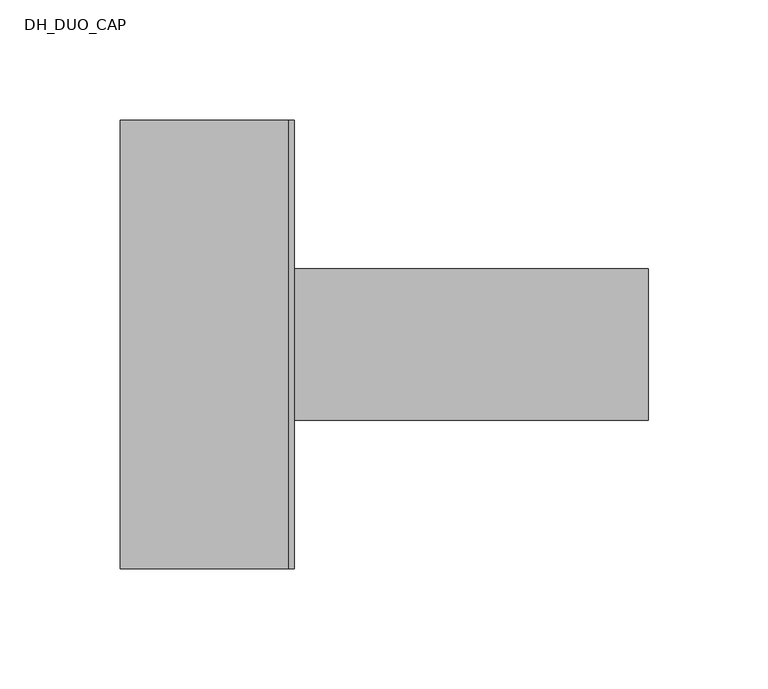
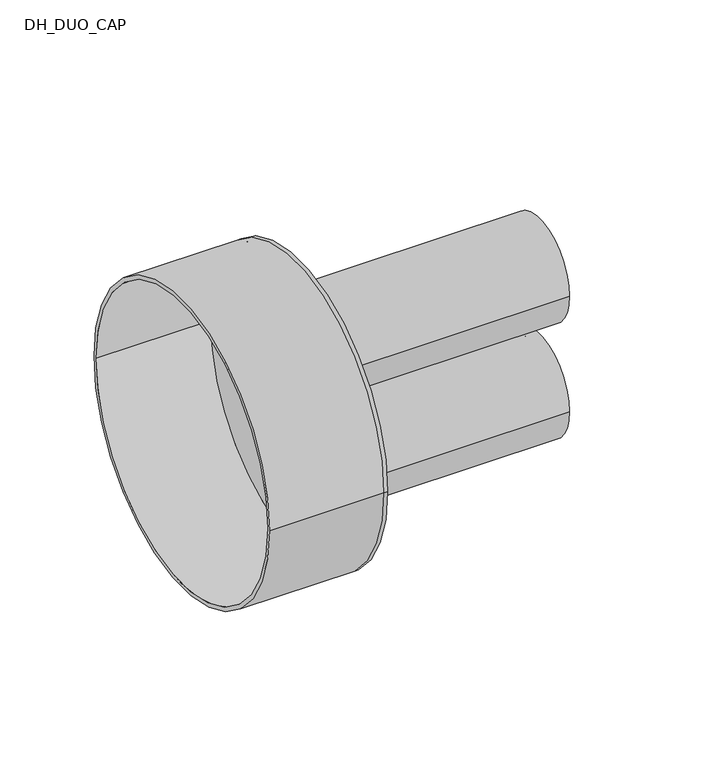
"""IFC4 building model written with IfcOpenShell, lengths in millimetres: pipe fitting geometry, DH_DUO_CAP : RAUTHERMEX DUO 11 Heating - Solid Cap."""

from ifc_helpers import new_model, si_unit, point, frame, frame_2d, origin, place, context, project, spatial, polyline, circle_curve, trimmed, segment, composite_curve, outline, extrude, source, transform, mapped, element, save
from ifc_brep_helpers import plane_surface, cylinder_surface, revolved_surface, advanced_brep


def dh_duo_cap_2d6c33d1(model_context):
    return source(origin(), model_context, "Body", "SolidModel", [
        extrude(outline(composite_curve([segment(trimmed(circle_curve(frame_2d((0.0, -37.5)), 31.5), [point((-31.5, -37.5))], [point((31.5, -37.5))], False, "CARTESIAN"), True, "CONTINUOUS"), segment(trimmed(circle_curve(frame_2d((0.0, -37.5)), 31.5), [point((31.5, -37.5))], [point((-31.5, -37.5))], False, "CARTESIAN"), True, "CONTINUOUS")], self_intersect=False), holes=[composite_curve([segment(trimmed(circle_curve(frame_2d((0.0, -37.5)), 25.7), [point((-25.7, -37.5))], [point((25.7, -37.5))], True, "CARTESIAN"), True, "CONTINUOUS"), segment(trimmed(circle_curve(frame_2d((0.0, -37.5)), 25.7), [point((25.7, -37.5))], [point((-25.7, -37.5))], True, "CARTESIAN"), True, "CONTINUOUS")], self_intersect=False)]), frame((0.0, 0.0, 0.0), z_axis=(1.0, 0.0, 0.0), x_axis=(0.0, 1.0, 0.0)), (0.0, 0.0, 1.0), 150.0),
        extrude(outline(composite_curve([segment(trimmed(circle_curve(frame_2d((0.0, 37.5)), 31.5), [point((-31.5, 37.5))], [point((31.5, 37.5))], False, "CARTESIAN"), True, "CONTINUOUS"), segment(trimmed(circle_curve(frame_2d((0.0, 37.5)), 31.5), [point((31.5, 37.5))], [point((-31.5, 37.5))], False, "CARTESIAN"), True, "CONTINUOUS")], self_intersect=False), holes=[composite_curve([segment(trimmed(circle_curve(frame_2d((0.0, 37.5)), 25.7), [point((-25.7, 37.5))], [point((25.7, 37.5))], True, "CARTESIAN"), True, "CONTINUOUS"), segment(trimmed(circle_curve(frame_2d((0.0, 37.5)), 25.7), [point((25.7, 37.5))], [point((-25.7, 37.5))], True, "CARTESIAN"), True, "CONTINUOUS")], self_intersect=False)]), frame((0.0, 0.0, 0.0), z_axis=(1.0, 0.0, 0.0), x_axis=(0.0, 1.0, 0.0)), (0.0, 0.0, 1.0), 150.0),
        advanced_brep(
        [(-70.0, -93.5, 0.0), (-70.0, 93.5, 0.0), (-70.0, -91.0, 0.0), (-70.0, 91.0, 0.0), (0.0, -91.0, 0.0), (0.0, 91.0, 0.0), (0.0, -93.5, 0.0), (0.0, 93.5, 0.0), (0.0, 31.5, 37.5), (0.0, -31.5, 37.5), (0.0, 31.5, -37.5), (0.0, -31.5, -37.5), (2.5, -93.5, 0.0), (2.5, 93.5, 0.0), (2.5, -31.5, 37.5), (2.5, 31.5, 37.5), (2.5, -31.5, -37.5), (2.5, 31.5, -37.5)],
        [
            (0, 1, circle_curve(frame((-70.0, 0.0, 0.0), z_axis=(-1.0, 0.0, 0.0), x_axis=(0.0, 1.0, 0.0)), 93.5)),
            (1, 0, circle_curve(frame((-70.0, 0.0, 0.0), z_axis=(-1.0, 0.0, 0.0), x_axis=(0.0, 1.0, 0.0)), 93.5)),
            (2, 3, circle_curve(frame((-70.0, 0.0, 0.0), z_axis=(1.0, 0.0, 0.0), x_axis=(0.0, 1.0, 0.0)), 91.0)),
            (3, 2, circle_curve(frame((-70.0, 0.0, 0.0), z_axis=(1.0, 0.0, 0.0), x_axis=(0.0, 1.0, 0.0)), 91.0)),
            (2, 4),
            (4, 5, circle_curve(frame((0.0, 0.0, 0.0), z_axis=(1.0, 0.0, 0.0), x_axis=(0.0, 1.0, 0.0)), 91.0)),
            (5, 3),
            (5, 4, circle_curve(frame((0.0, 0.0, 0.0), z_axis=(1.0, 0.0, 0.0), x_axis=(0.0, 1.0, 0.0)), 91.0)),
            (0, 6),
            (6, 7, circle_curve(frame((0.0, 0.0, 0.0), z_axis=(-1.0, 0.0, 0.0), x_axis=(0.0, 1.0, 0.0)), 93.5)),
            (7, 1),
            (7, 6, circle_curve(frame((0.0, 0.0, 0.0), z_axis=(-1.0, 0.0, 0.0), x_axis=(0.0, 1.0, 0.0)), 93.5)),
            (8, 9, circle_curve(frame((0.0, 0.0, 37.5), z_axis=(1.0, 0.0, 0.0), x_axis=(0.0, 1.0, 0.0)), 31.5)),
            (9, 8, circle_curve(frame((0.0, 0.0, 37.5), z_axis=(1.0, 0.0, 0.0), x_axis=(0.0, 1.0, 0.0)), 31.5)),
            (10, 11, circle_curve(frame((0.0, 0.0, -37.5), z_axis=(1.0, 0.0, 0.0), x_axis=(0.0, 1.0, 0.0)), 31.5)),
            (11, 10, circle_curve(frame((0.0, 0.0, -37.5), z_axis=(1.0, 0.0, 0.0), x_axis=(0.0, 1.0, 0.0)), 31.5)),
            (12, 13, circle_curve(frame((2.5, 0.0, 0.0), z_axis=(1.0, 0.0, 0.0), x_axis=(0.0, 1.0, 0.0)), 93.5)),
            (13, 12, circle_curve(frame((2.5, 0.0, 0.0), z_axis=(1.0, 0.0, 0.0), x_axis=(0.0, 1.0, 0.0)), 93.5)),
            (14, 15, circle_curve(frame((2.5, 0.0, 37.5), z_axis=(-1.0, 0.0, 0.0), x_axis=(0.0, 1.0, 0.0)), 31.5)),
            (15, 14, circle_curve(frame((2.5, 0.0, 37.5), z_axis=(-1.0, 0.0, 0.0), x_axis=(0.0, 1.0, 0.0)), 31.5)),
            (16, 17, circle_curve(frame((2.5, 0.0, -37.5), z_axis=(-1.0, 0.0, 0.0), x_axis=(0.0, 1.0, 0.0)), 31.5)),
            (17, 16, circle_curve(frame((2.5, 0.0, -37.5), z_axis=(-1.0, 0.0, 0.0), x_axis=(0.0, 1.0, 0.0)), 31.5)),
            (13, 7),
            (6, 12),
            (8, 15),
            (14, 9),
            (10, 17),
            (16, 11),
        ],
        [
            plane_surface(frame((-70.0, 0.0, 0.0), z_axis=(-1.0, 0.0, 0.0), x_axis=(0.0, 0.0, 1.0))),
            revolved_surface(polyline([(0.0, 91.0, 0.0), (-70.0, 91.0, 0.0)]), (-70.0, 0.0, 0.0), (1.0, 0.0, 0.0)),
            cylinder_surface(frame((-70.0, 0.0, 0.0), z_axis=(-1.0, 0.0, 0.0), x_axis=(0.0, 1.0, 0.0)), 93.5),
            plane_surface(frame((0.0, 0.0, 0.0), z_axis=(-1.0, 0.0, 0.0), x_axis=(0.0, 0.0, 1.0))),
            plane_surface(frame((2.5, 0.0, 0.0), z_axis=(1.0, 0.0, 0.0), x_axis=(0.0, 0.0, 1.0))),
            cylinder_surface(frame((0.0, 0.0, 0.0), z_axis=(-1.0, 0.0, 0.0), x_axis=(0.0, 1.0, 0.0)), 93.5),
            revolved_surface(polyline([(0.0, 31.5, 37.5), (2.5, 31.5, 37.5)]), (0.0, 0.0, 37.5), (-1.0, 0.0, 0.0)),
            revolved_surface(polyline([(0.0, 31.5, -37.5), (2.5, 31.5, -37.5)]), (0.0, 0.0, -37.5), (-1.0, 0.0, 0.0)),
        ],
        [
            (0, [[1, 2], [3, 4]]),
            (1, [[-3, 5, 6, 7]]),
            (1, [[-4, -7, 8, -5]]),
            (2, [[-1, 9, 10, 11]]),
            (2, [[-2, -11, 12, -9]]),
            (3, [[-6, -8], [13, 14], [15, 16]]),
            (4, [[17, 18], [19, 20], [21, 22]]),
            (5, [[-18, 23, -10, 24]]),
            (5, [[-17, -24, -12, -23]]),
            (6, [[25, -19, 26, -13]]),
            (6, [[-25, -14, -26, -20]]),
            (7, [[27, -21, 28, -15]]),
            (7, [[-27, -16, -28, -22]]),
        ],
    ),
    ])


if __name__ == "__main__":
    model = new_model("IFC4")
    model_context = context("Model", 3, world=origin())
    ifc_project = project(units=[si_unit("LENGTHUNIT", "METRE", prefix="MILLI")], contexts=[model_context])
    site = spatial("IfcSite", under=ifc_project)
    building = spatial("IfcBuilding", under=site)
    placement = place(None, origin())
    dh_duo_cap_shape = dh_duo_cap_2d6c33d1(model_context)
    element("IfcPipeFitting", 1, ObjectType="DH_DUO_CAP : RAUTHERMEX DUO 11 Heating - Solid Cap", at=placement, inside=building, context=model_context, shape_type="MappedRepresentation", body=[
        mapped(dh_duo_cap_shape, transform((0.0, 0.0, 0.0), x_axis=(1.0, 0.0, 0.0), y_axis=(0.0, 1.0, 0.0), z_axis=(0.0, 0.0, 1.0))),
    ])
    save(model, "model.ifc")
